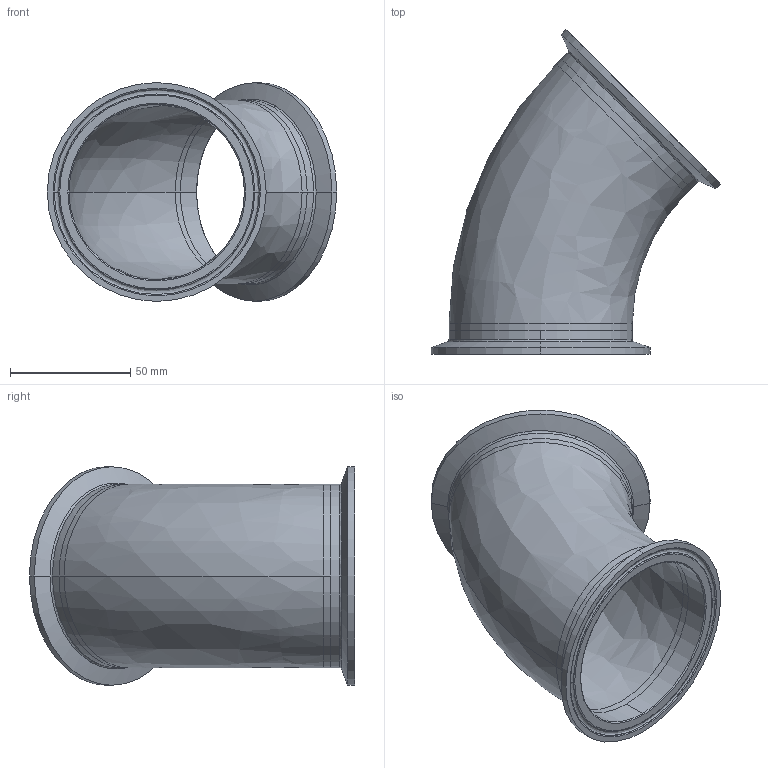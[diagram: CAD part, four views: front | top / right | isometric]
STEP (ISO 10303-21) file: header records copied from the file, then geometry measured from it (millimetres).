
FILE_DESCRIPTION (( 'STEP AP214' ), '1' );
FILE_NAME ('TEG2K6L3.0-...STEP', '2016-05-22T07:36:05', ( 'eran' ), ( '' ), 'SwSTEP 2.0', 'SolidWorks 2016', '' );
FILE_SCHEMA (( 'AUTOMOTIVE_DESIGN' ));
Length unit declared in the file: millimetre
Products named in the file (1): TEG2K6L3.0-..
Bounding box: 120.23 x 135.08 x 90.91 mm (x, y, z)
Volume: 60033 mm3; surface area: 63579.1 mm2
Topology: 3 solids, 3 shells, 64 faces, 156 edges, 100 vertices
Faces by surface type: bspline 24, cylinder 20, cone 12, plane 8
Entity records: 3406 total; most frequent: CARTESIAN_POINT 1849, DIRECTION 338, ORIENTED_EDGE 312, EDGE_CURVE 156, AXIS2_PLACEMENT_3D 153, CIRCLE 112, VERTEX_POINT 100, EDGE_LOOP 72
